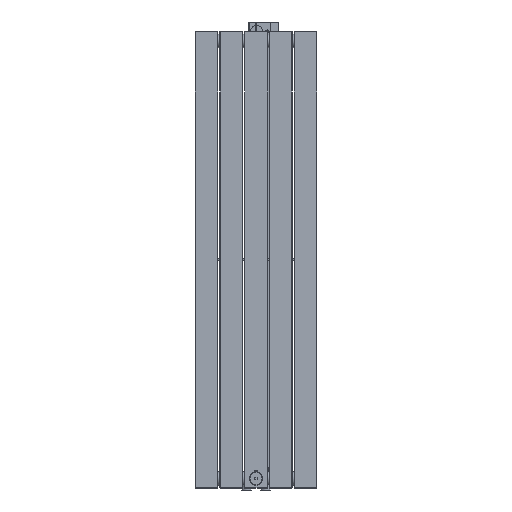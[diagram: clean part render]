
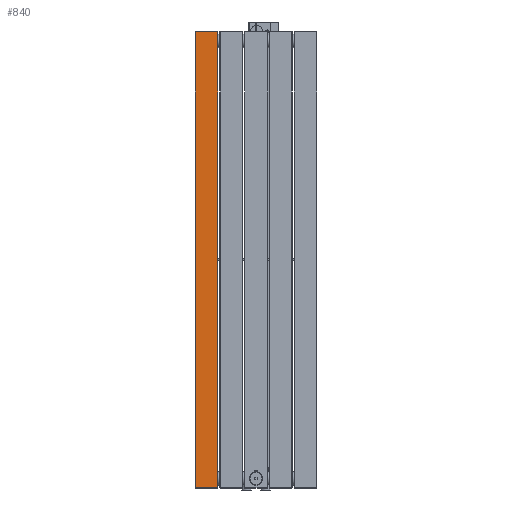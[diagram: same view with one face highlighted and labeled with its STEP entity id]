
A CAD part, front view. The second image highlights one B-rep face of the part: STEP entity #840.
In plain terms, the highlighted planar face has unit normal (0, -1, 0) as drawn and (0, 1, 0) by its records, which use the part's own axes.
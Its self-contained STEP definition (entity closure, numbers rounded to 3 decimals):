
#840 = ADVANCED_FACE( '', ( #2013 ), #2014, .F. );
#2013 = FACE_OUTER_BOUND( '', #3789, .T. );
#2014 = PLANE( '', #3790 );
#3789 = EDGE_LOOP( '', ( #6353, #6354, #6355, #6356 ) );
#3790 = AXIS2_PLACEMENT_3D( '', #6357, #6358, #6359 );
#6353 = ORIENTED_EDGE( '', *, *, #10823, .T. );
#6354 = ORIENTED_EDGE( '', *, *, #10824, .T. );
#6355 = ORIENTED_EDGE( '', *, *, #10825, .T. );
#6356 = ORIENTED_EDGE( '', *, *, #10826, .T. );
#6357 = CARTESIAN_POINT( '', ( 60., 10., 1200. ) );
#6358 = DIRECTION( '', ( 0., -1., 0. ) );
#6359 = DIRECTION( '', ( 0., 0., -1. ) );
#10823 = EDGE_CURVE( '', #12533, #12534, #12535, .F. );
#10824 = EDGE_CURVE( '', #12534, #12536, #12537, .F. );
#10825 = EDGE_CURVE( '', #12536, #12538, #12539, .T. );
#10826 = EDGE_CURVE( '', #12538, #12533, #12540, .T. );
#12533 = VERTEX_POINT( '', #16368 );
#12534 = VERTEX_POINT( '', #16369 );
#12535 = LINE( '', #16370, #16371 );
#12536 = VERTEX_POINT( '', #16372 );
#12537 = LINE( '', #16373, #16374 );
#12538 = VERTEX_POINT( '', #16375 );
#12539 = LINE( '', #16376, #16377 );
#12540 = LINE( '', #16378, #16379 );
#16368 = CARTESIAN_POINT( '', ( 1., 10., 1. ) );
#16369 = CARTESIAN_POINT( '', ( 1., 10., 1199. ) );
#16370 = CARTESIAN_POINT( '', ( 1., 10., 1200. ) );
#16371 = VECTOR( '', #21837, 1000. );
#16372 = CARTESIAN_POINT( '', ( 59., 10., 1199. ) );
#16373 = CARTESIAN_POINT( '', ( 59., 10., 1199. ) );
#16374 = VECTOR( '', #21838, 1000. );
#16375 = CARTESIAN_POINT( '', ( 59., 10., 1. ) );
#16376 = CARTESIAN_POINT( '', ( 59., 10., 1200. ) );
#16377 = VECTOR( '', #21839, 1000. );
#16378 = CARTESIAN_POINT( '', ( 60., 10., 1. ) );
#16379 = VECTOR( '', #21840, 1000. );
#21837 = DIRECTION( '', ( 0., 0., -1. ) );
#21838 = DIRECTION( '', ( -1., 0., 0. ) );
#21839 = DIRECTION( '', ( 0., 0., -1. ) );
#21840 = DIRECTION( '', ( -1., 0., 0. ) );
